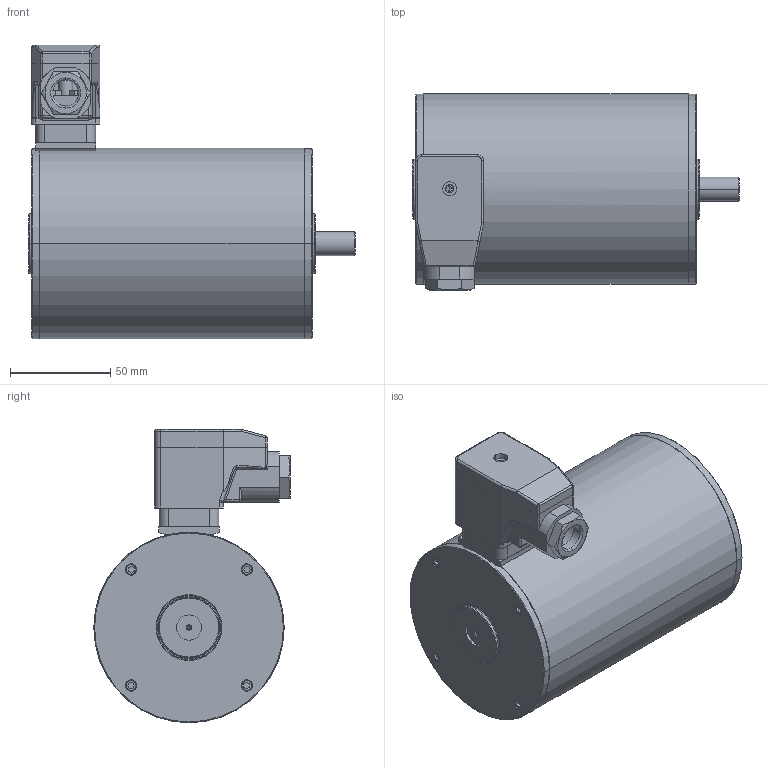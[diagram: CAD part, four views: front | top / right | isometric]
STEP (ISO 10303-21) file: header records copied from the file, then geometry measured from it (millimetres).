
FILE_DESCRIPTION (( 'STEP AP214' ), '1' );
FILE_NAME ('D9562.STEP', '2012-04-16T12:30:21', ( ' ' ), ( '' ), 'SwSTEP 2.0', 'SolidWorks 2010', '' );
FILE_SCHEMA (( 'AUTOMOTIVE_DESIGN' ));
Length unit declared in the file: millimetre
Products named in the file (8): 918082000; D9562; Hirschmann_GSAZ-300; 935282005_ﾘ95; Hirschmann_GDME3020; Hirschmann_GDM 3-21_K2-K22-Dichtung f.Dose; Hirschmann_Einsatz-GDME3020
Assembly tree (7 placements, depth 3):
  D9562
    918082000
      Hirschmann_GSAZ-300
      Hirschmann_GDME3020
      Hirschmann_Einsatz-GDME3020
      Hirschmann_GDM 3-21_K2-K22-Dichtung f.Dose
      935282005_ﾘ95
    D9562
Bounding box: 163 x 97.99 x 146.42 mm (x, y, z)
Volume: 1050722.2 mm3; surface area: 90972.8 mm2
Topology: 11 solids, 11 shells, 792 faces, 2017 edges, 1293 vertices
Faces by surface type: plane 419, cylinder 267, cone 64, torus 18, bspline 16, sphere 8
Entity records: 27038 total; most frequent: CARTESIAN_POINT 5575, DIRECTION 4109, ORIENTED_EDGE 4002, EDGE_CURVE 2001, AXIS2_PLACEMENT_3D 1411, VERTEX_POINT 1293, LINE 1287, VECTOR 1287
